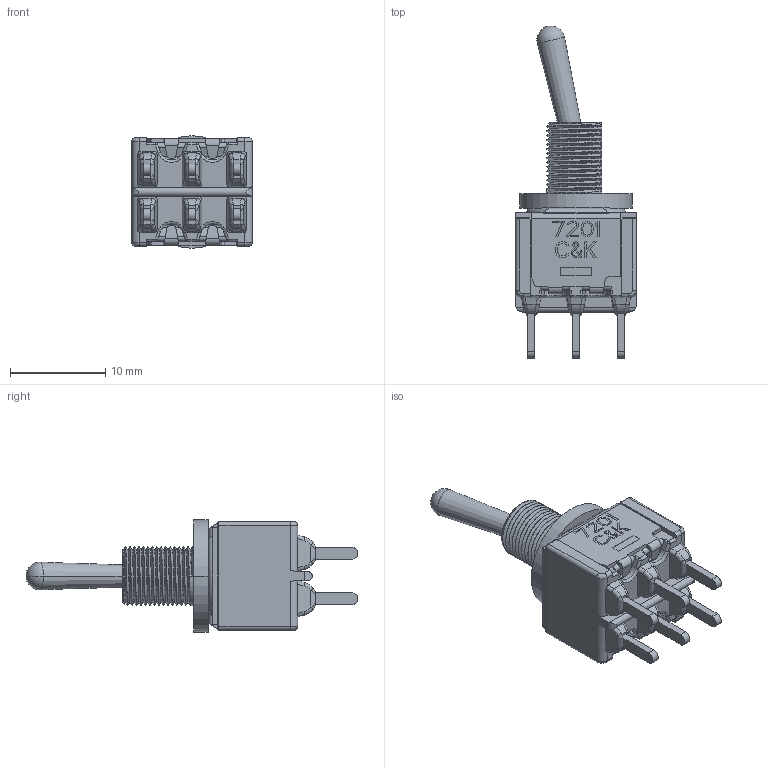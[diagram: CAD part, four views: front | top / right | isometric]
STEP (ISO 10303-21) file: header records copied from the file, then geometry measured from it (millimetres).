
FILE_DESCRIPTION((''),'2;1');
FILE_NAME('72XXSCWC_SW0001_PRT','2012-08-21T',('jtrepler'),(''),'PRO/ENGINEER BY PARAMETRIC TECHNOLOGY CORPORATION, 2011080','PRO/ENGINEER BY PARAMETRIC TECHNOLOGY CORPORATION, 2011080','');
FILE_SCHEMA(('AUTOMOTIVE_DESIGN_CC2 { 1 2 10303 214 -1 1 5 2 }'));
Length unit declared in the file: inch
Products named in the file (1): 72XXSCWC_SW0001_PRT
Bounding box: 12.7 x 34.88 x 11.81 mm (x, y, z)
Volume: 1026.9 mm3; surface area: 2555.7 mm2
Topology: 1 solids, 1 shells, 1075 faces, 2912 edges, 1840 vertices
Faces by surface type: plane 694, cylinder 216, bspline 121, torus 18, sphere 14, cone 12
Entity records: 44752 total; most frequent: CARTESIAN_POINT 18796, ORIENTED_EDGE 5816, DIRECTION 4723, EDGE_CURVE 2908, VECTOR 2069, LINE 2069, VERTEX_POINT 1840, AXIS2_PLACEMENT_3D 1327
